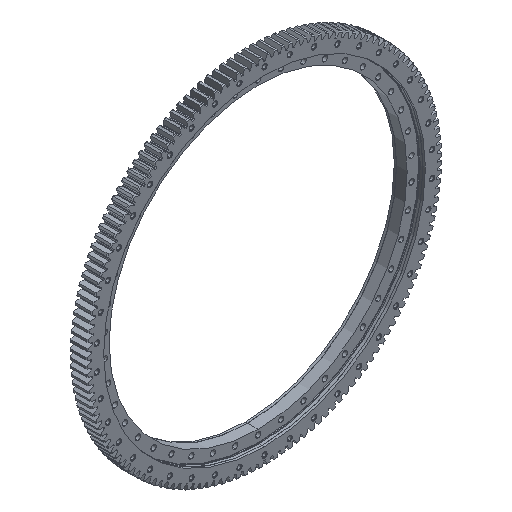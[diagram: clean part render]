
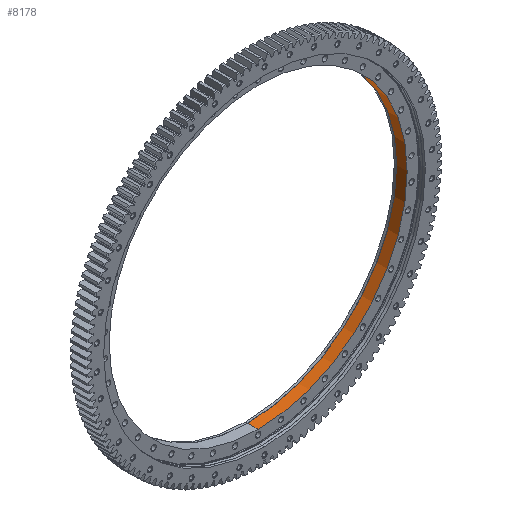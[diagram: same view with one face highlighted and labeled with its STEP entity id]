
A CAD part, isometric view. The second image highlights one B-rep face of the part: STEP entity #8178.
In plain terms, the highlighted cylindrical face has radius 627.5 mm (diameter 1255 mm), a partial arc.
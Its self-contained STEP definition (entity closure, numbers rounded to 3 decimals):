
#1554 = VERTEX_POINT ( 'NONE', #43873 ) ;
#2100 = CARTESIAN_POINT ( 'NONE',  ( 0., 0., 0. ) ) ;
#3689 = DIRECTION ( 'NONE',  ( 0., -1., 0. ) ) ;
#4536 = CARTESIAN_POINT ( 'NONE',  ( 0., -6.285, 627.5 ) ) ;
#4667 = VERTEX_POINT ( 'NONE', #26904 ) ;
#4934 = CARTESIAN_POINT ( 'NONE',  ( 0., 0., 627.5 ) ) ;
#8122 = EDGE_CURVE ( 'NONE', #4667, #42117, #22959, .T. ) ;
#8178 = ADVANCED_FACE ( 'NONE', ( #23008 ), #9606, .F. ) ;
#8648 = EDGE_CURVE ( 'NONE', #36058, #4667, #44427, .T. ) ;
#8688 = AXIS2_PLACEMENT_3D ( 'NONE', #28374, #3689, #32583 ) ;
#9165 = CARTESIAN_POINT ( 'NONE',  ( 0., 38.715, -627.5 ) ) ;
#9606 = CYLINDRICAL_SURFACE ( 'NONE', #42539, 627.5 ) ;
#11753 = DIRECTION ( 'NONE',  ( 0., -1., 0. ) ) ;
#16175 = CIRCLE ( 'NONE', #8688, 627.5 ) ;
#18362 = EDGE_CURVE ( 'NONE', #36058, #1554, #16175, .T. ) ;
#18851 = VECTOR ( 'NONE', #22777, 1000. ) ;
#22581 = CARTESIAN_POINT ( 'NONE',  ( 0., 0., -627.5 ) ) ;
#22777 = DIRECTION ( 'NONE',  ( 0., -1., 0. ) ) ;
#22959 = CIRCLE ( 'NONE', #45513, 627.5 ) ;
#23008 = FACE_OUTER_BOUND ( 'NONE', #32041, .T. ) ;
#26613 = ORIENTED_EDGE ( 'NONE', *, *, #18362, .F. ) ;
#26904 = CARTESIAN_POINT ( 'NONE',  ( 0., -6.285, -627.5 ) ) ;
#27480 = DIRECTION ( 'NONE',  ( 0., -1., 0. ) ) ;
#28374 = CARTESIAN_POINT ( 'NONE',  ( 0., 38.715, 0. ) ) ;
#29622 = ORIENTED_EDGE ( 'NONE', *, *, #39619, .F. ) ;
#32041 = EDGE_LOOP ( 'NONE', ( #29622, #26613, #39233, #32795 ) ) ;
#32583 = DIRECTION ( 'NONE',  ( 0., 0., -1. ) ) ;
#32795 = ORIENTED_EDGE ( 'NONE', *, *, #8122, .T. ) ;
#36058 = VERTEX_POINT ( 'NONE', #9165 ) ;
#36934 = DIRECTION ( 'NONE',  ( 0., -1., 0. ) ) ;
#39233 = ORIENTED_EDGE ( 'NONE', *, *, #8648, .T. ) ;
#39619 = EDGE_CURVE ( 'NONE', #1554, #42117, #40892, .T. ) ;
#40892 = LINE ( 'NONE', #4934, #18851 ) ;
#41118 = DIRECTION ( 'NONE',  ( 0., 0., -1. ) ) ;
#41820 = DIRECTION ( 'NONE',  ( 0., 0., -1. ) ) ;
#42117 = VERTEX_POINT ( 'NONE', #4536 ) ;
#42539 = AXIS2_PLACEMENT_3D ( 'NONE', #2100, #27480, #41820 ) ;
#43873 = CARTESIAN_POINT ( 'NONE',  ( 0., 38.715, 627.5 ) ) ;
#43928 = CARTESIAN_POINT ( 'NONE',  ( 0., -6.285, 0. ) ) ;
#44044 = VECTOR ( 'NONE', #36934, 1000. ) ;
#44427 = LINE ( 'NONE', #22581, #44044 ) ;
#45513 = AXIS2_PLACEMENT_3D ( 'NONE', #43928, #11753, #41118 ) ;
